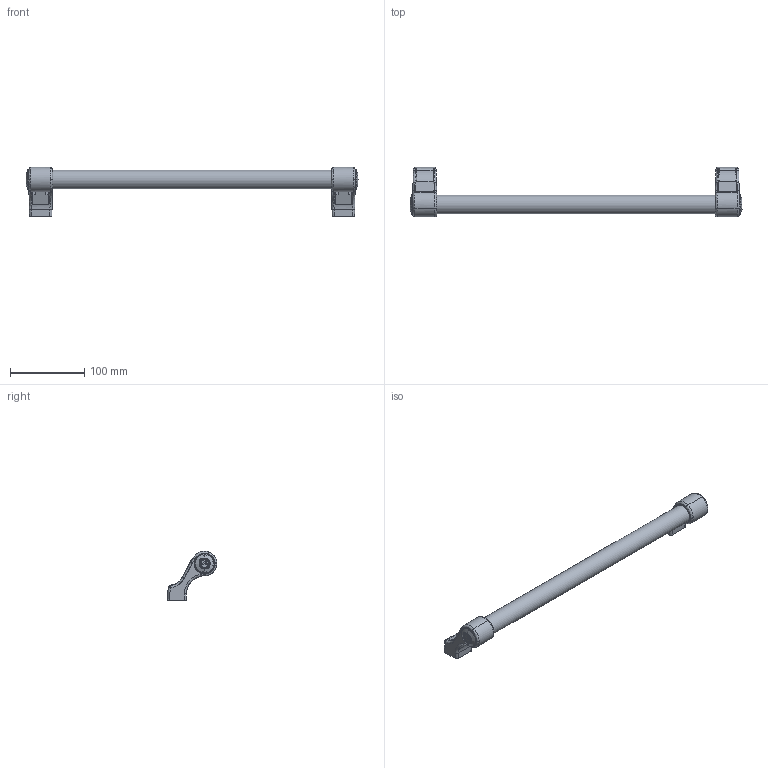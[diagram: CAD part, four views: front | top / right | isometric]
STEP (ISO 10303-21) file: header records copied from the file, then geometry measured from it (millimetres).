
FILE_DESCRIPTION (( 'STEP AP214' ), '1' );
FILE_NAME ('ens_poignée F31111.step', '2024-12-03T16:10:42', ( '' ), ( '' ), 'SwSTEP 2.0', 'SolidWorks 2023', '' );
FILE_SCHEMA (( 'AUTOMOTIVE_DESIGN' ));
Length unit declared in the file: millimetre
Products named in the file (4): F31111_1_F31111AA; F31111_2_F31111AA; A42126_A42126 (Argent) Lg400; ens_poignée F31111
Assembly tree (3 placements, depth 2):
  ens_poignée F31111
    F31111_1_F31111AA
    F31111_2_F31111AA
    A42126_A42126 (Argent) Lg400
Bounding box: 447.6 x 67 x 66.68 mm (x, y, z)
Volume: 44296.5 mm3; surface area: 96484.4 mm2
Topology: 1 solids, 20 shells, 620 faces, 2199 edges, 1540 vertices
Faces by surface type: bspline 230, plane 199, cylinder 167, cone 24
Full cylindrical faces by diameter (mm): 4.8 x2, 7 x2, 8.5 x3, 10 x2, 11 x2, 14.9 x1, 22 x1, 25 x1, 27 x2
Entity records: 51895 total; most frequent: CARTESIAN_POINT 36769, ORIENTED_EDGE 3481, EDGE_CURVE 2145, DIRECTION 2123, VERTEX_POINT 1526, B_SPLINE_CURVE_WITH_KNOTS 839, VECTOR 799, LINE 799
